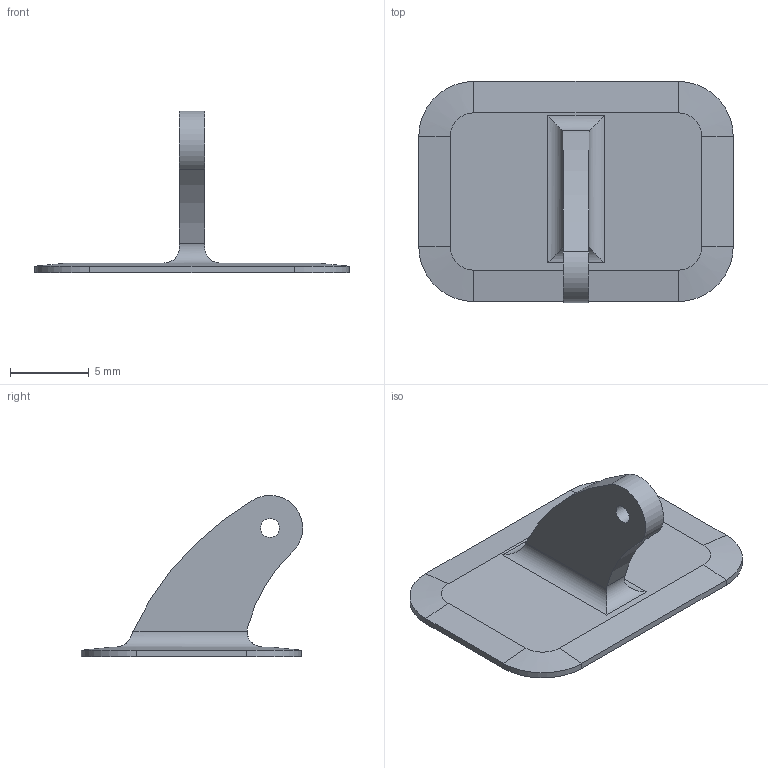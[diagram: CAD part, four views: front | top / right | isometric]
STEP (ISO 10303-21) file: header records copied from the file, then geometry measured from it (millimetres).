
FILE_DESCRIPTION(/* description */ (''),/* implementation_level */ '2;1');
FILE_NAME(/* name */ '',/* time_stamp */ '2026-08-05T11:43:50+03:00',/* author */ (''),/* organization */ (''),/* preprocessor_version */ 'ST-DEVELOPER v20.1',/* originating_system */ 'Autodesk Translation Framework v15.8.0.0',/* authorisation */ '');
FILE_SCHEMA (('AUTOMOTIVE_DESIGN { 1 0 10303 214 3 1 1 }'));
Length unit declared in the file: millimetre
Products named in the file (2): Engine_pylon; Сontrol_horn_small
Assembly tree (1 placements, depth 2):
  Engine_pylon
    Сontrol_horn_small
Bounding box: 20 x 14.08 x 10.25 mm (x, y, z)
Volume: 247.6 mm3; surface area: 708.8 mm2
Topology: 1 solids, 1 shells, 28 faces, 67 edges, 42 vertices
Faces by surface type: cylinder 12, plane 12, cone 4
Full cylindrical faces by diameter (mm): 1.2 x1
Entity records: 876 total; most frequent: DIRECTION 153, CARTESIAN_POINT 150, ORIENTED_EDGE 134, EDGE_CURVE 67, AXIS2_PLACEMENT_3D 57, VERTEX_POINT 42, LINE 39, VECTOR 39
